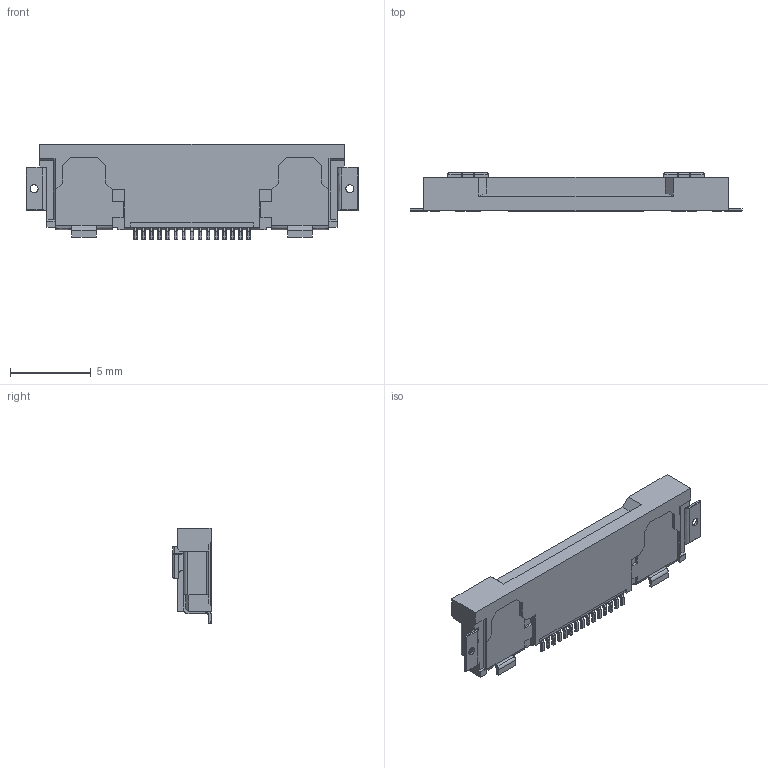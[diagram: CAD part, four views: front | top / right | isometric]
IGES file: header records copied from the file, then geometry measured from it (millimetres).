
Start section: SolidWorks IGES file using analytic representation for surfaces
Global section: file name: C:\Documents and Settings\kaihatsu-3dcad-3\デスクトップ\20526-015E-01C ASSY IGES R4 ALL.IGS; native system: SolidWorks 2011; preprocessor: SolidWorks 2011; author: kaihatsu-3dcad-3; date: 120106.175952; units: millimetre
Bounding box: 20.6 x 2.4 x 5.9 mm (x, y, z)
Surface area: 349.5 mm2 (no closed solid volume)
Topology: 0 solids, 0 shells, 435 faces, 2752 edges, 2752 vertices
Faces by surface type: bspline 326, revolution 109
